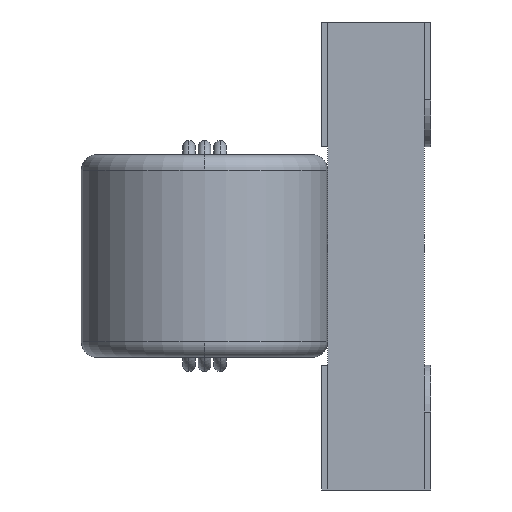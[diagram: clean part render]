
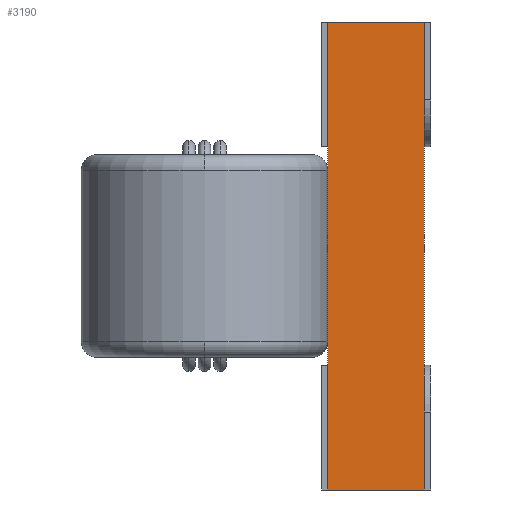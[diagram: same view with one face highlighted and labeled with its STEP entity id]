
A CAD part, left-side view. The second image highlights one B-rep face of the part: STEP entity #3190.
In plain terms, the highlighted planar face has unit normal (-1, 0, 0).
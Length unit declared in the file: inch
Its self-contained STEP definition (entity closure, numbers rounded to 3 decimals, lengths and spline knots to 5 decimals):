
#128 = DIRECTION ( 'NONE',  ( 0., 0., 1. ) ) ;
#259 = AXIS2_PLACEMENT_3D ( 'NONE', #1494, #1404, #1101 ) ;
#471 = LINE ( 'NONE', #6809, #4689 ) ;
#598 = FACE_OUTER_BOUND ( 'NONE', #6236, .T. ) ;
#637 = EDGE_CURVE ( 'NONE', #4278, #1753, #874, .T. ) ;
#874 = LINE ( 'NONE', #5090, #3643 ) ;
#973 = ORIENTED_EDGE ( 'NONE', *, *, #3683, .T. ) ;
#1101 = DIRECTION ( 'NONE',  ( 0., 0., -1. ) ) ;
#1404 = DIRECTION ( 'NONE',  ( 1., 0., 0. ) ) ;
#1494 = CARTESIAN_POINT ( 'NONE',  ( -0.075, 0.031, 0.075 ) ) ;
#1753 = VERTEX_POINT ( 'NONE', #6151 ) ;
#1760 = ORIENTED_EDGE ( 'NONE', *, *, #2201, .F. ) ;
#2201 = EDGE_CURVE ( 'NONE', #4394, #6067, #471, .T. ) ;
#2596 = PLANE ( 'NONE',  #259 ) ;
#3190 = ADVANCED_FACE ( 'NONE', ( #598 ), #2596, .F. ) ;
#3246 = ORIENTED_EDGE ( 'NONE', *, *, #637, .F. ) ;
#3396 = DIRECTION ( 'NONE',  ( 0., -1., 0. ) ) ;
#3544 = CARTESIAN_POINT ( 'NONE',  ( -0.075, 0.031, -0.075 ) ) ;
#3643 = VECTOR ( 'NONE', #128, 39.37008 ) ;
#3683 = EDGE_CURVE ( 'NONE', #4278, #6067, #7119, .T. ) ;
#3862 = CARTESIAN_POINT ( 'NONE',  ( -0.075, 0.031, -0.075 ) ) ;
#3943 = ORIENTED_EDGE ( 'NONE', *, *, #4139, .F. ) ;
#4137 = CARTESIAN_POINT ( 'NONE',  ( -0.075, 0., 0.075 ) ) ;
#4139 = EDGE_CURVE ( 'NONE', #1753, #4394, #5748, .T. ) ;
#4259 = VECTOR ( 'NONE', #3396, 39.37008 ) ;
#4278 = VERTEX_POINT ( 'NONE', #3544 ) ;
#4394 = VERTEX_POINT ( 'NONE', #4137 ) ;
#4409 = DIRECTION ( 'NONE',  ( 0., -1., 0. ) ) ;
#4689 = VECTOR ( 'NONE', #6319, 39.37008 ) ;
#4886 = CARTESIAN_POINT ( 'NONE',  ( -0.075, 0., -0.075 ) ) ;
#5090 = CARTESIAN_POINT ( 'NONE',  ( -0.075, 0.031, 0.075 ) ) ;
#5675 = VECTOR ( 'NONE', #4409, 39.37008 ) ;
#5748 = LINE ( 'NONE', #6674, #4259 ) ;
#6067 = VERTEX_POINT ( 'NONE', #4886 ) ;
#6151 = CARTESIAN_POINT ( 'NONE',  ( -0.075, 0.031, 0.075 ) ) ;
#6236 = EDGE_LOOP ( 'NONE', ( #3246, #973, #1760, #3943 ) ) ;
#6319 = DIRECTION ( 'NONE',  ( 0., 0., -1. ) ) ;
#6674 = CARTESIAN_POINT ( 'NONE',  ( -0.075, 0.031, 0.075 ) ) ;
#6809 = CARTESIAN_POINT ( 'NONE',  ( -0.075, 0., 0. ) ) ;
#7119 = LINE ( 'NONE', #3862, #5675 ) ;
